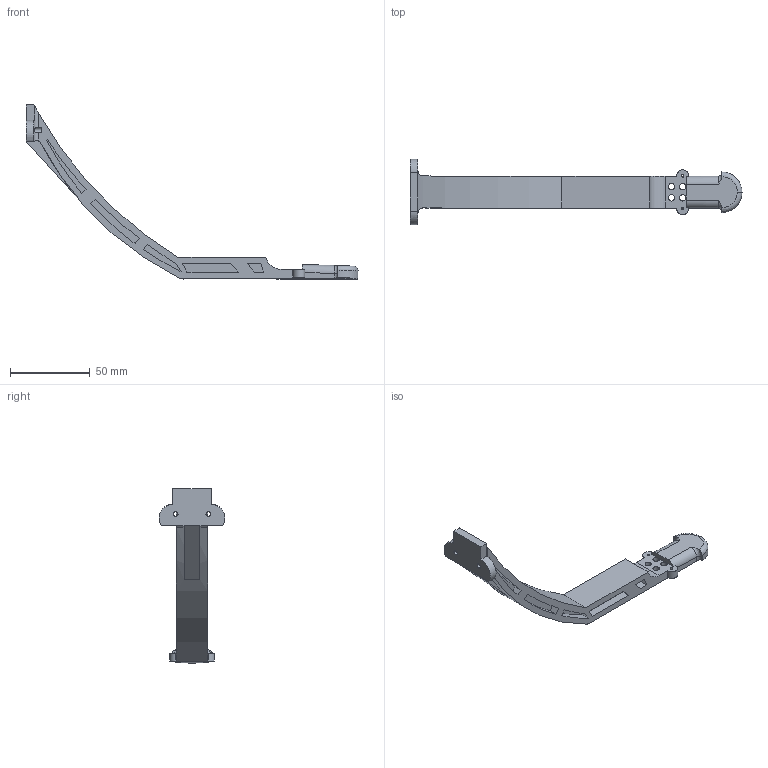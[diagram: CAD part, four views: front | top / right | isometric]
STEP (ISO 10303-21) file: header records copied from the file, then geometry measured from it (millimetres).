
FILE_DESCRIPTION (( 'STEP AP203' ), '1' );
FILE_NAME ('leg.1 step.STEP', '2026-03-29T10:17:10', ( '' ), ( '' ), 'SwSTEP 2.0', 'SolidWorks 2025', '' );
FILE_SCHEMA (( 'CONFIG_CONTROL_DESIGN' ));
Length unit declared in the file: millimetre
Products named in the file (1): leg.1 step
Bounding box: 207.7 x 41.08 x 108.9 mm (x, y, z)
Volume: 49625.4 mm3; surface area: 21130.8 mm2
Topology: 1 solids, 1 shells, 167 faces, 463 edges, 305 vertices
Faces by surface type: plane 109, cylinder 53, bspline 5
Entity records: 5742 total; most frequent: CARTESIAN_POINT 1551, ORIENTED_EDGE 926, DIRECTION 774, EDGE_CURVE 463, VERTEX_POINT 305, LINE 290, VECTOR 290, AXIS2_PLACEMENT_3D 242
